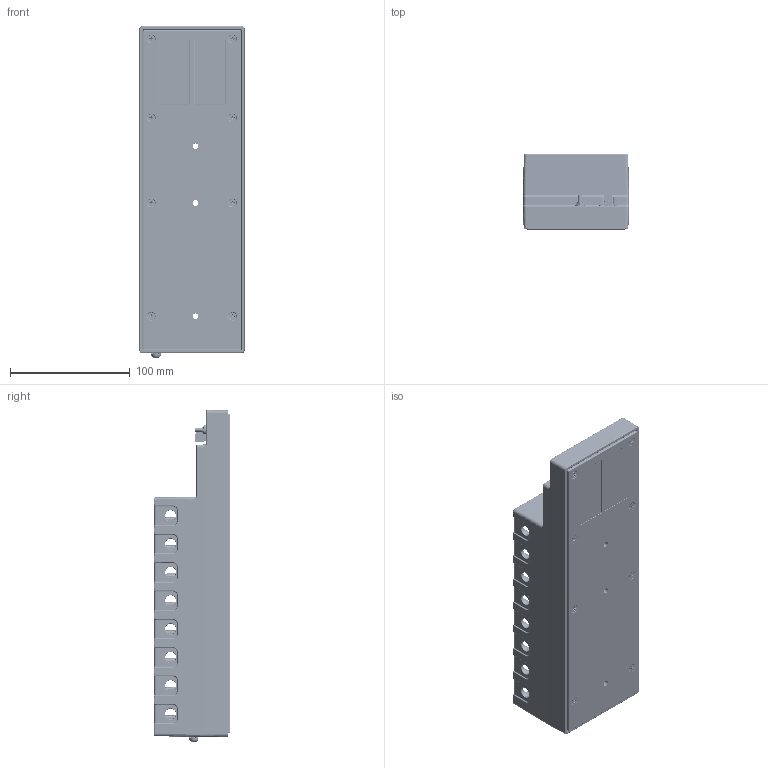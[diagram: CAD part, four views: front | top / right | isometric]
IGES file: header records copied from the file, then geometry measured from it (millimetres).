
Start section:  PTC IGES file: cu_cdaq-9189.igs
Global section: file name: cu_cdaq-9189.igs; native system: Creo Parametric by PTC Inc.; preprocessor: 2015380; author: dkendric; organization: Unknown; date: 20170505.095221; units: inch
Bounding box: 88.11 x 63.38 x 276.85 mm (x, y, z)
Surface area: 209662.2 mm2 (no closed solid volume)
Topology: 0 solids, 0 shells, 10046 faces, 48916 edges, 48862 vertices
Faces by surface type: bspline 5447, revolution 3684, extrusion 915
